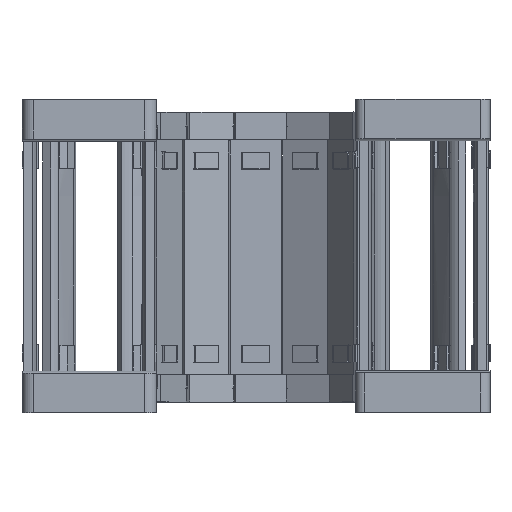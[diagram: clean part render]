
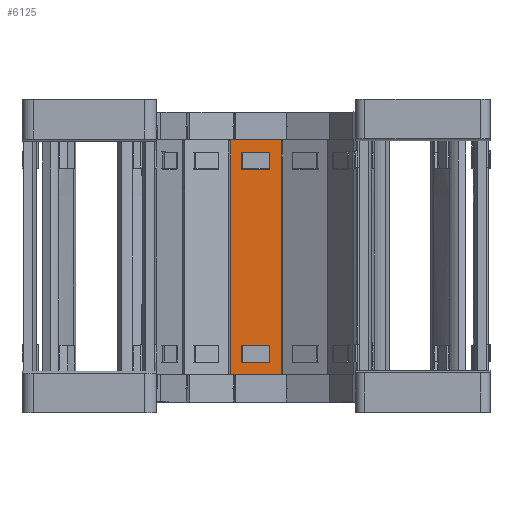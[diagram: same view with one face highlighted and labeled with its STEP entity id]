
A CAD part, top view. The second image highlights one B-rep face of the part: STEP entity #6125.
In plain terms, the highlighted planar face has unit normal (0.026, 0, 1).
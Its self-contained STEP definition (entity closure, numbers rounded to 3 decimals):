
#6125=ADVANCED_FACE('',(#25002,#25003,#25004),#8900,.F.);
#8900=PLANE('',#69244);
#13997=LINE('',#100575,#20853);
#14051=LINE('',#100734,#20907);
#14116=LINE('',#101094,#20972);
#14117=LINE('',#101096,#20973);
#14121=LINE('',#101104,#20977);
#14214=LINE('',#101405,#21070);
#14248=LINE('',#101515,#21104);
#14297=LINE('',#101839,#21153);
#14301=LINE('',#101851,#21157);
#14312=LINE('',#101876,#21168);
#14316=LINE('',#101883,#21172);
#14318=LINE('',#101887,#21174);
#14323=LINE('',#101917,#21179);
#14327=LINE('',#101927,#21183);
#14332=LINE('',#101959,#21188);
#14333=LINE('',#101960,#21189);
#14334=LINE('',#101961,#21190);
#14335=LINE('',#101963,#21191);
#20853=VECTOR('',#79300,1.);
#20907=VECTOR('',#79390,1.);
#20972=VECTOR('',#79607,1.);
#20973=VECTOR('',#79610,1.);
#20977=VECTOR('',#79616,1.);
#21070=VECTOR('',#79825,1.);
#21104=VECTOR('',#79883,1.);
#21153=VECTOR('',#80066,1.);
#21157=VECTOR('',#80076,1.);
#21168=VECTOR('',#80097,1.);
#21172=VECTOR('',#80103,1.);
#21174=VECTOR('',#80107,1.);
#21179=VECTOR('',#80120,1.);
#21183=VECTOR('',#80130,1.);
#21188=VECTOR('',#80149,1.);
#21189=VECTOR('',#80150,1.);
#21190=VECTOR('',#80151,1.);
#21191=VECTOR('',#80152,1.);
#25002=FACE_BOUND('',#26769,.T.);
#25003=FACE_BOUND('',#26770,.T.);
#25004=FACE_BOUND('',#26771,.T.);
#26769=EDGE_LOOP('',(#37878,#37879,#37880,#37881,#37882,#37883));
#26770=EDGE_LOOP('',(#37884,#37885,#37886,#37887,#37888,#37889));
#26771=EDGE_LOOP('',(#37890,#37891,#37892,#37893,#37894,#37895));
#37878=ORIENTED_EDGE('',*,*,#59926,.T.);
#37879=ORIENTED_EDGE('',*,*,#59874,.F.);
#37880=ORIENTED_EDGE('',*,*,#59741,.F.);
#37881=ORIENTED_EDGE('',*,*,#59898,.F.);
#37882=ORIENTED_EDGE('',*,*,#59431,.F.);
#37883=ORIENTED_EDGE('',*,*,#59608,.F.);
#37884=ORIENTED_EDGE('',*,*,#59927,.F.);
#37885=ORIENTED_EDGE('',*,*,#59908,.T.);
#37886=ORIENTED_EDGE('',*,*,#59896,.T.);
#37887=ORIENTED_EDGE('',*,*,#59880,.F.);
#37888=ORIENTED_EDGE('',*,*,#59783,.F.);
#37889=ORIENTED_EDGE('',*,*,#59913,.F.);
#37890=ORIENTED_EDGE('',*,*,#59609,.F.);
#37891=ORIENTED_EDGE('',*,*,#59892,.T.);
#37892=ORIENTED_EDGE('',*,*,#59928,.T.);
#37893=ORIENTED_EDGE('',*,*,#59929,.F.);
#37894=ORIENTED_EDGE('',*,*,#59613,.F.);
#37895=ORIENTED_EDGE('',*,*,#59497,.F.);
#51365=VERTEX_POINT('',#100574);
#51366=VERTEX_POINT('',#100576);
#51392=VERTEX_POINT('',#100658);
#51418=VERTEX_POINT('',#100721);
#51483=VERTEX_POINT('',#101093);
#51484=VERTEX_POINT('',#101097);
#51487=VERTEX_POINT('',#101105);
#51574=VERTEX_POINT('',#101404);
#51575=VERTEX_POINT('',#101406);
#51595=VERTEX_POINT('',#101477);
#51609=VERTEX_POINT('',#101507);
#51661=VERTEX_POINT('',#101840);
#51666=VERTEX_POINT('',#101852);
#51674=VERTEX_POINT('',#101875);
#51677=VERTEX_POINT('',#101884);
#51683=VERTEX_POINT('',#101918);
#51685=VERTEX_POINT('',#101926);
#51690=VERTEX_POINT('',#101962);
#59431=EDGE_CURVE('',#51365,#51366,#13997,.T.);
#59497=EDGE_CURVE('',#51418,#51392,#14051,.T.);
#59608=EDGE_CURVE('',#51483,#51365,#14116,.T.);
#59609=EDGE_CURVE('',#51484,#51418,#14117,.T.);
#59613=EDGE_CURVE('',#51392,#51487,#14121,.T.);
#59741=EDGE_CURVE('',#51574,#51575,#14214,.T.);
#59783=EDGE_CURVE('',#51595,#51609,#14248,.T.);
#59874=EDGE_CURVE('',#51575,#51661,#14297,.T.);
#59880=EDGE_CURVE('',#51609,#51666,#14301,.T.);
#59892=EDGE_CURVE('',#51484,#51674,#14312,.T.);
#59896=EDGE_CURVE('',#51677,#51666,#14316,.T.);
#59898=EDGE_CURVE('',#51366,#51574,#14318,.T.);
#59908=EDGE_CURVE('',#51683,#51677,#14323,.T.);
#59913=EDGE_CURVE('',#51685,#51595,#14327,.T.);
#59926=EDGE_CURVE('',#51483,#51661,#14332,.T.);
#59927=EDGE_CURVE('',#51683,#51685,#14333,.T.);
#59928=EDGE_CURVE('',#51674,#51690,#14334,.T.);
#59929=EDGE_CURVE('',#51487,#51690,#14335,.T.);
#69244=AXIS2_PLACEMENT_3D('',#101964,#80153,#80154);
#79300=DIRECTION('',(1.,0.,-0.026));
#79390=DIRECTION('',(-1.,0.,0.026));
#79607=DIRECTION('',(1.,0.,-0.026));
#79610=DIRECTION('',(-1.,0.,0.026));
#79616=DIRECTION('',(-1.,0.,0.026));
#79825=DIRECTION('',(-1.,0.,0.026));
#79883=DIRECTION('',(1.,0.,-0.026));
#80066=DIRECTION('',(-1.,0.,0.026));
#80076=DIRECTION('',(1.,0.,-0.026));
#80097=DIRECTION('',(0.,-1.,0.));
#80103=DIRECTION('',(0.,-1.,0.));
#80107=DIRECTION('',(0.,-1.,0.));
#80120=DIRECTION('',(1.,0.,-0.026));
#80130=DIRECTION('',(1.,0.,-0.026));
#80149=DIRECTION('',(0.,-1.,0.));
#80150=DIRECTION('',(0.,-1.,0.));
#80151=DIRECTION('',(-1.,0.,0.026));
#80152=DIRECTION('',(0.,-1.,0.));
#80153=DIRECTION('',(-0.026,0.,-1.));
#80154=DIRECTION('',(1.,0.,-0.026));
#100574=CARTESIAN_POINT('',(379.153,34.434,750.093));
#100575=CARTESIAN_POINT('',(378.817,34.434,750.102));
#100576=CARTESIAN_POINT('',(389.214,34.434,749.83));
#100658=CARTESIAN_POINT('',(380.87,31.822,750.048));
#100721=CARTESIAN_POINT('',(386.562,31.822,749.899));
#100734=CARTESIAN_POINT('',(386.736,31.822,749.895));
#101093=CARTESIAN_POINT('',(378.217,34.434,750.118));
#101094=CARTESIAN_POINT('',(378.817,34.434,750.102));
#101096=CARTESIAN_POINT('',(386.736,31.822,749.895));
#101097=CARTESIAN_POINT('',(386.736,31.822,749.895));
#101104=CARTESIAN_POINT('',(386.736,31.822,749.895));
#101105=CARTESIAN_POINT('',(380.695,31.822,750.053));
#101404=CARTESIAN_POINT('',(389.214,-16.066,749.83));
#101405=CARTESIAN_POINT('',(378.817,-16.066,750.102));
#101406=CARTESIAN_POINT('',(379.153,-16.066,750.093));
#101477=CARTESIAN_POINT('',(380.87,-13.455,750.048));
#101507=CARTESIAN_POINT('',(386.562,-13.455,749.899));
#101515=CARTESIAN_POINT('',(386.736,-13.455,749.895));
#101839=CARTESIAN_POINT('',(378.817,-16.066,750.102));
#101840=CARTESIAN_POINT('',(378.217,-16.066,750.118));
#101851=CARTESIAN_POINT('',(386.736,-13.455,749.895));
#101852=CARTESIAN_POINT('',(386.736,-13.455,749.895));
#101875=CARTESIAN_POINT('',(386.736,28.15,749.895));
#101876=CARTESIAN_POINT('',(386.736,46.919,749.895));
#101883=CARTESIAN_POINT('',(386.736,-28.552,749.895));
#101884=CARTESIAN_POINT('',(386.736,-9.782,749.895));
#101887=CARTESIAN_POINT('',(389.214,-33.552,749.83));
#101917=CARTESIAN_POINT('',(386.736,-9.782,749.895));
#101918=CARTESIAN_POINT('',(380.695,-9.782,750.053));
#101926=CARTESIAN_POINT('',(380.695,-13.455,750.053));
#101927=CARTESIAN_POINT('',(386.736,-13.455,749.895));
#101959=CARTESIAN_POINT('',(378.217,-33.552,750.118));
#101960=CARTESIAN_POINT('',(380.695,-28.552,750.053));
#101961=CARTESIAN_POINT('',(386.736,28.15,749.895));
#101962=CARTESIAN_POINT('',(380.695,28.15,750.053));
#101963=CARTESIAN_POINT('',(380.695,46.919,750.053));
#101964=CARTESIAN_POINT('',(376.74,-33.552,750.156));
